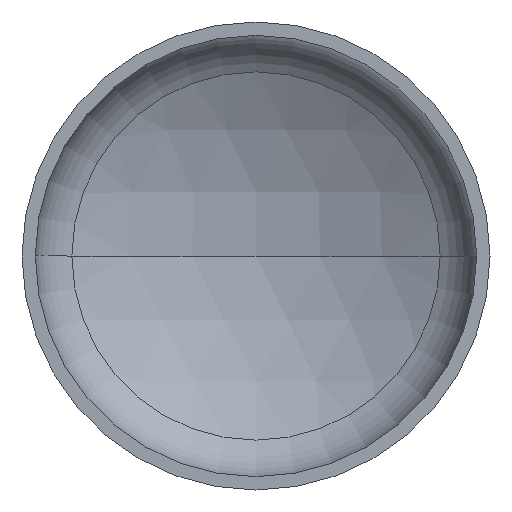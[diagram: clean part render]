
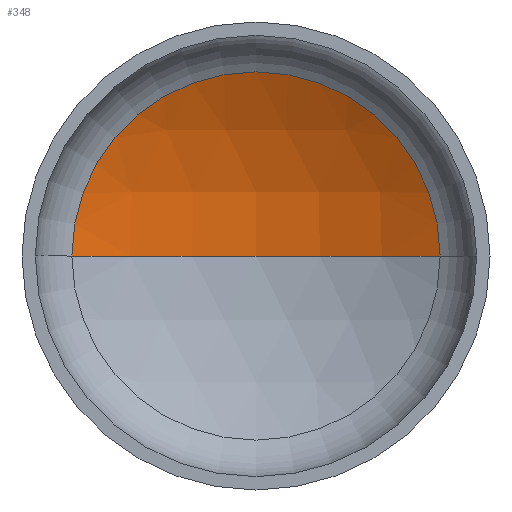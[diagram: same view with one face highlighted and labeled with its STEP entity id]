
A CAD part, front view. The second image highlights one B-rep face of the part: STEP entity #348.
In plain terms, the highlighted spherical face has radius 2240 mm.
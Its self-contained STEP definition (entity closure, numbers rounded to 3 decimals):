
#8 = DIRECTION ( 'NONE',  ( 1., 0., 0. ) ) ;
#15 = DIRECTION ( 'NONE',  ( -1., 0., 0. ) ) ;
#21 = EDGE_LOOP ( 'NONE', ( #111, #60, #47 ) ) ;
#24 = DIRECTION ( 'NONE',  ( 0., 0., -1. ) ) ;
#28 = CARTESIAN_POINT ( 'NONE',  ( 0., -1456.071, 0. ) ) ;
#29 = AXIS2_PLACEMENT_3D ( 'NONE', #316, #189, #202 ) ;
#31 = AXIS2_PLACEMENT_3D ( 'NONE', #28, #24, #15 ) ;
#35 = AXIS2_PLACEMENT_3D ( 'NONE', #238, #393, #8 ) ;
#42 = VERTEX_POINT ( 'NONE', #252 ) ;
#47 = ORIENTED_EDGE ( 'NONE', *, *, #88, .T. ) ;
#60 = ORIENTED_EDGE ( 'NONE', *, *, #91, .T. ) ;
#84 = VERTEX_POINT ( 'NONE', #306 ) ;
#88 = EDGE_CURVE ( 'NONE', #105, #84, #145, .T. ) ;
#91 = EDGE_CURVE ( 'NONE', #42, #105, #389, .T. ) ;
#105 = VERTEX_POINT ( 'NONE', #198 ) ;
#106 = EDGE_CURVE ( 'NONE', #42, #84, #323, .T. ) ;
#111 = ORIENTED_EDGE ( 'NONE', *, *, #106, .F. ) ;
#139 = DIRECTION ( 'NONE',  ( -1., 0., 0. ) ) ;
#145 = CIRCLE ( 'NONE', #35, 1101.436 ) ;
#175 = CARTESIAN_POINT ( 'NONE',  ( 0., -1456.071, 0. ) ) ;
#189 = DIRECTION ( 'NONE',  ( 0., 0., 1. ) ) ;
#196 = AXIS2_PLACEMENT_3D ( 'NONE', #175, #204, #139 ) ;
#198 = CARTESIAN_POINT ( 'NONE',  ( 1101.436, 494.426, 0. ) ) ;
#202 = DIRECTION ( 'NONE',  ( 1., 0., 0. ) ) ;
#204 = DIRECTION ( 'NONE',  ( 0., 0., -1. ) ) ;
#238 = CARTESIAN_POINT ( 'NONE',  ( 0., 494.426, 0. ) ) ;
#252 = CARTESIAN_POINT ( 'NONE',  ( 0., 783.929, 0. ) ) ;
#306 = CARTESIAN_POINT ( 'NONE',  ( -1101.436, 494.426, 0. ) ) ;
#316 = CARTESIAN_POINT ( 'NONE',  ( 0., -1456.071, 0. ) ) ;
#323 = CIRCLE ( 'NONE', #29, 2240. ) ;
#346 = FACE_OUTER_BOUND ( 'NONE', #21, .T. ) ;
#348 = ADVANCED_FACE ( 'NONE', ( #346 ), #407, .F. ) ;
#389 = CIRCLE ( 'NONE', #31, 2240. ) ;
#393 = DIRECTION ( 'NONE',  ( 0., -1., 0. ) ) ;
#407 = SPHERICAL_SURFACE ( 'NONE', #196, 2240. ) ;
